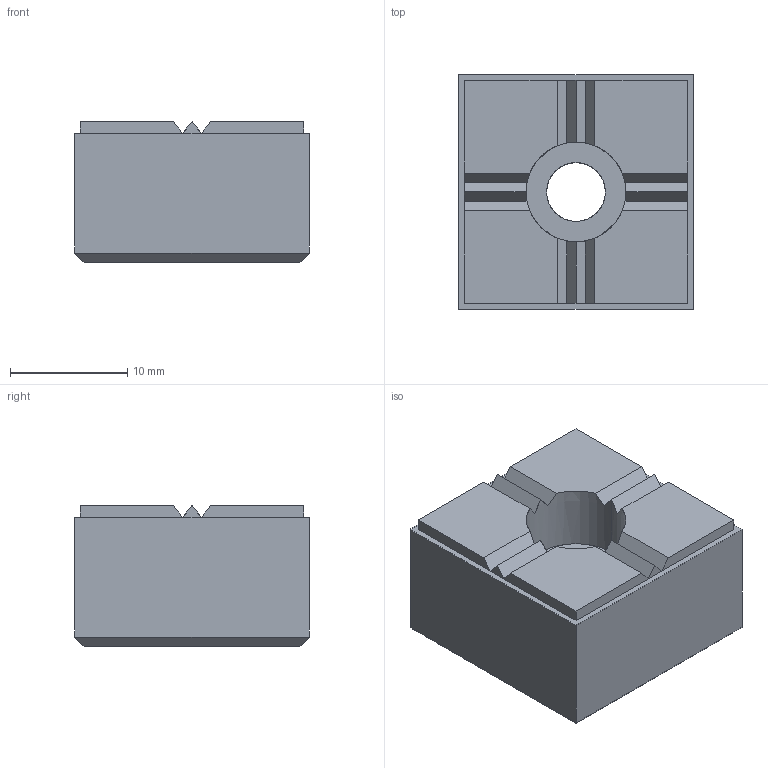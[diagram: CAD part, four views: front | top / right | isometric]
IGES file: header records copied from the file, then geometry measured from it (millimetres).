
Start section: SolidWorks IGES FILE using analytic representation for surfaces
Global section: file name: C:\WIX2\Positioning\3549\3549W004.igs; native system: SolidWorks 2003 by SolidWorks Corporation; preprocessor: Version 5.3; author: Joan; date: 030722.164425; units: millimetre
Bounding box: 20 x 20 x 12 mm (x, y, z)
Surface area: 1955.4 mm2 (no closed solid volume)
Topology: 0 solids, 0 shells, 47 faces, 330 edges, 330 vertices
Faces by surface type: bspline 43, revolution 4
